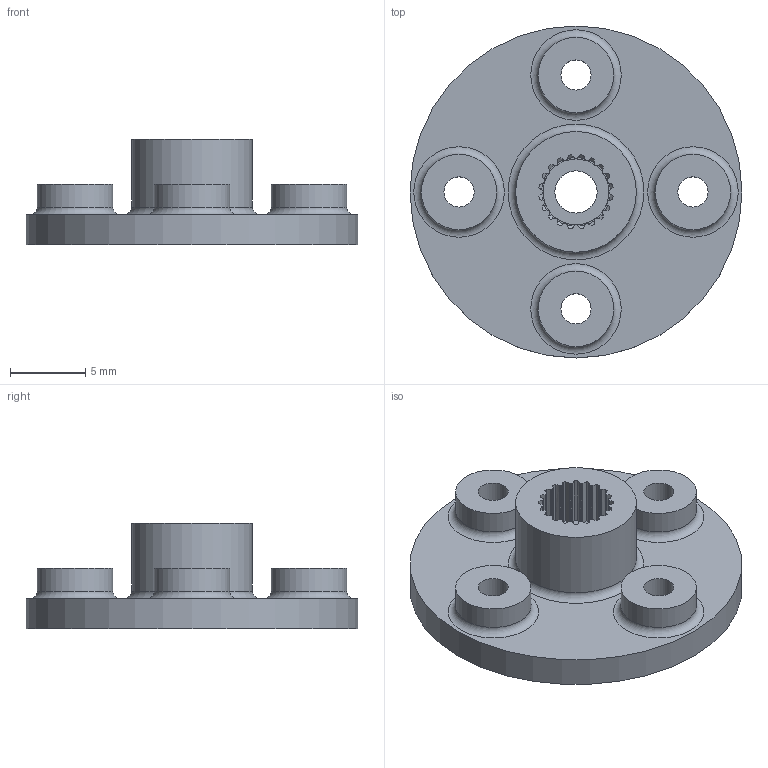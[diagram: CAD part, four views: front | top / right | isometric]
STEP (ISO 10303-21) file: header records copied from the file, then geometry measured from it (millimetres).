
FILE_DESCRIPTION((''),'2;1');
FILE_NAME('C:\Users\DELL\Dropbox\Inventor\Projects\Servo MG90S\Tower Pro Servo Adapter Horn Plate - Subtract Shaft.stp','2020-03-17T09:06:23',('DELL'),(''),'Autodesk Inventor 2013','Autodesk Inventor 2013','');
FILE_SCHEMA(('AUTOMOTIVE_DESIGN { 1 0 10303 214 1 1 1 1 }'));
Length unit declared in the file: millimetre
Products named in the file (1): Tower Pro Servo Adapter Horn Plate - Subtract Shaft
Bounding box: 22 x 22 x 7 mm (x, y, z)
Volume: 1018.1 mm3; surface area: 1307.8 mm2
Topology: 1 solids, 1 shells, 207 faces, 593 edges, 395 vertices
Faces by surface type: cylinder 113, bspline 40, plane 29, cone 20, torus 5
Full cylindrical faces by diameter (mm): 2 x4, 2.8 x1, 4.367 x1, 5 x5, 8 x1, 22 x1
Entity records: 7100 total; most frequent: CARTESIAN_POINT 1808, ORIENTED_EDGE 1140, DIRECTION 1076, EDGE_CURVE 570, AXIS2_PLACEMENT_3D 458, VERTEX_POINT 390, CIRCLE 290, EDGE_LOOP 242
